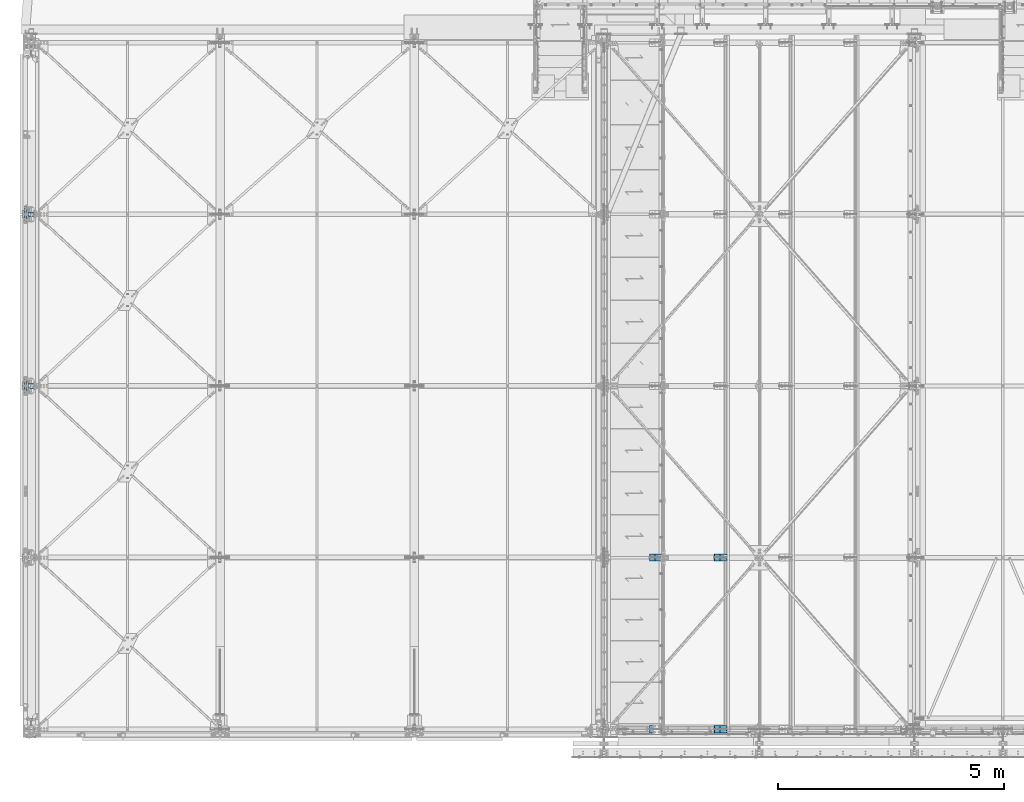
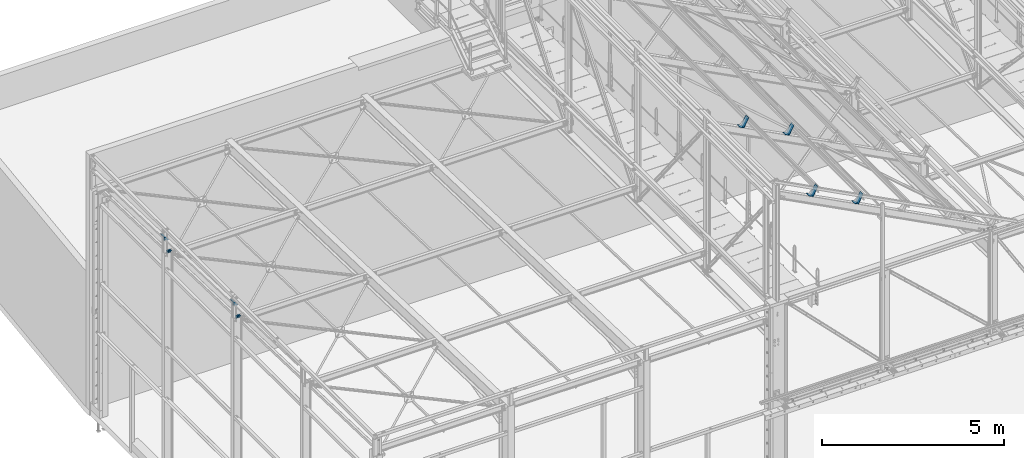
# One storey, part 353 of 362: 12 beams, 12 elements without a shape of their own.
"""IFC2X3 building model written with IfcOpenShell, lengths in millimetres."""

from ifc_helpers import new_model, si_unit, frame, origin_with_axes, place, context, subcontext, project, spatial, faceted_brep, material, type_object, element, aggregate, save


model = new_model("IFC2X3")

# Units and contexts
model_context = context("Model", 3, precision=1e-05, world=origin_with_axes())
body_context = subcontext(model_context, "Body", "Model", "MODEL_VIEW")
ifc_project = project(units=[si_unit("LENGTHUNIT", "METRE", prefix="MILLI"), si_unit("AREAUNIT", "SQUARE_METRE"), si_unit("VOLUMEUNIT", "CUBIC_METRE"), si_unit("MASSUNIT", "GRAM", prefix="KILO"), si_unit("TIMEUNIT", "SECOND"), si_unit("PLANEANGLEUNIT", "RADIAN"), si_unit("SOLIDANGLEUNIT", "STERADIAN"), si_unit("THERMODYNAMICTEMPERATUREUNIT", "DEGREE_CELSIUS"), si_unit("LUMINOUSINTENSITYUNIT", "LUMEN")], contexts=[model_context])

# Site, building, storey
site_placement = place(None, origin_with_axes())
site = spatial("IfcSite", under=ifc_project, at=site_placement, Name="Undefined", CompositionType="ELEMENT")
building_placement = place(site_placement, origin_with_axes())
building = spatial("IfcBuilding", under=site, at=building_placement, Name="Undefined", CompositionType="ELEMENT")
storey_placement = place(building_placement, origin_with_axes())
storey = spatial("IfcBuildingStorey", under=building, at=storey_placement, Name="Undefined", CompositionType="ELEMENT", Elevation=0.0)

# Assembly, beam
assembly_1_placement = place(storey_placement, origin_with_axes())
assembly_1 = element("IfcElementAssembly", 1, at=assembly_1_placement, inside=storey, Name="PANNE SHED", AssemblyPlace="NOTDEFINED", PredefinedType="NOTDEFINED")
ifc_material = material(Name="Undefined/S235-E24")
beam_type_1 = type_object("IfcBeamType", Name="PL10*160", PredefinedType="NOTDEFINED")
beam_1_placement = place(assembly_1_placement, frame((13962.1917528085, 4.08011983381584e-05, 11908.3024814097), z_axis=(0.0, -1.0, 0.0), x_axis=(-0.463528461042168, 0.0, -0.886082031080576)))
beam_1 = element("IfcBeam", 2, at=beam_1_placement, type_object=beam_type_1, material=ifc_material, Name="PANNE SHED", ObjectType="PL10*160", context=body_context, shape_type="Brep", body=[
    faceted_brep([(5.07934601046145e-08, -5.00000000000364, -80.0), (5.081164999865e-08, -5.0, 80.0), (-5.08007360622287e-08, 5.0, 79.9999999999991), (-5.0815287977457e-08, 4.99999999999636, -80.0000000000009), (329.999999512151, 5.00000335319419, 79.99999999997), (329.999999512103, 5.00000335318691, -80.00000000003), (319.999998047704, -4.9999967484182, -80.0000000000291), (319.999998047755, -4.99999674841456, 79.9999999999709), (330.000011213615, -145.000008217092, 80.0000000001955), (330.000011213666, -145.000008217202, -79.9999999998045), (320.000011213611, -145.000008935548, 80.0000000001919), (320.000011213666, -145.000008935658, -79.9999999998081)], [[[0, 1, 2, 3]], [[3, 2, 4, 5]], [[1, 0, 6, 7]], [[5, 4, 8, 9]], [[4, 2, 1, 7, 10, 8]], [[7, 6, 11, 10]], [[6, 0, 3, 5, 9, 11]], [[10, 11, 9, 8]]]),
])
aggregate(assembly_1, [beam_1])

assembly_2_placement = place(storey_placement, origin_with_axes())
assembly_2 = element("IfcElementAssembly", 3, at=assembly_2_placement, inside=storey, Name="PANNE SHED", AssemblyPlace="NOTDEFINED", PredefinedType="NOTDEFINED")
beam_2_placement = place(assembly_2_placement, frame((15399.49179541, 4.08011983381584e-05, 11156.4201912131), z_axis=(0.0, -1.0, 0.0), x_axis=(-0.463528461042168, 0.0, -0.886082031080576)))
beam_2 = element("IfcBeam", 4, at=beam_2_placement, type_object=beam_type_1, material=ifc_material, Name="PANNE SHED", ObjectType="PL10*160", context=body_context, shape_type="Brep", body=[
    faceted_brep([(5.07934601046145e-08, -5.00000000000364, -80.0), (5.081164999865e-08, -5.0, 80.0), (-5.08007360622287e-08, 5.0, 79.9999999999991), (-5.0815287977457e-08, 4.99999999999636, -80.0000000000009), (329.999999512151, 5.00000335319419, 79.99999999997), (329.999999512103, 5.00000335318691, -80.00000000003), (319.999998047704, -4.9999967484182, -80.0000000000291), (319.999998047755, -4.99999674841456, 79.9999999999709), (330.000011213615, -145.000008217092, 80.0000000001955), (330.000011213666, -145.000008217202, -79.9999999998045), (320.000011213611, -145.000008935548, 80.0000000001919), (320.000011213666, -145.000008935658, -79.9999999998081)], [[[0, 1, 2, 3]], [[3, 2, 4, 5]], [[1, 0, 6, 7]], [[5, 4, 8, 9]], [[4, 2, 1, 7, 10, 8]], [[7, 6, 11, 10]], [[6, 0, 3, 5, 9, 11]], [[10, 11, 9, 8]]]),
])
aggregate(assembly_2, [beam_2])

assembly_3_placement = place(storey_placement, origin_with_axes())
assembly_3 = element("IfcElementAssembly", 5, at=assembly_3_placement, inside=storey, Name="PANNE SHED", AssemblyPlace="NOTDEFINED", PredefinedType="NOTDEFINED")
beam_3_placement = place(assembly_3_placement, frame((13962.1917528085, 3800.0000408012, 11908.3024814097), z_axis=(0.0, -1.0, 0.0), x_axis=(-0.463528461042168, 0.0, -0.886082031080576)))
beam_3 = element("IfcBeam", 6, at=beam_3_placement, type_object=beam_type_1, material=ifc_material, Name="PANNE SHED", ObjectType="PL10*160", context=body_context, shape_type="Brep", body=[
    faceted_brep([(5.07934601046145e-08, -5.00000000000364, -80.0), (5.081164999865e-08, -5.0, 80.0), (-5.08007360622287e-08, 5.0, 79.9999999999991), (-5.0815287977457e-08, 4.99999999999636, -80.0000000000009), (329.999999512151, 5.00000335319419, 79.99999999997), (329.999999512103, 5.00000335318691, -80.00000000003), (319.999998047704, -4.9999967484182, -80.0000000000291), (319.999998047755, -4.99999674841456, 79.9999999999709), (330.000011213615, -145.000008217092, 80.0000000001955), (330.000011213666, -145.000008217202, -79.9999999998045), (320.000011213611, -145.000008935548, 80.0000000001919), (320.000011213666, -145.000008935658, -79.9999999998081)], [[[0, 1, 2, 3]], [[3, 2, 4, 5]], [[1, 0, 6, 7]], [[5, 4, 8, 9]], [[4, 2, 1, 7, 10, 8]], [[7, 6, 11, 10]], [[6, 0, 3, 5, 9, 11]], [[10, 11, 9, 8]]]),
])
aggregate(assembly_3, [beam_3])

assembly_4_placement = place(storey_placement, origin_with_axes())
assembly_4 = element("IfcElementAssembly", 7, at=assembly_4_placement, inside=storey, Name="PANNE SHED", AssemblyPlace="NOTDEFINED", PredefinedType="NOTDEFINED")
beam_4_placement = place(assembly_4_placement, frame((15399.49179541, 3800.0000408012, 11156.4201912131), z_axis=(0.0, -1.0, 0.0), x_axis=(-0.463528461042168, 0.0, -0.886082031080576)))
beam_4 = element("IfcBeam", 8, at=beam_4_placement, type_object=beam_type_1, material=ifc_material, Name="PANNE SHED", ObjectType="PL10*160", context=body_context, shape_type="Brep", body=[
    faceted_brep([(5.07934601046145e-08, -5.00000000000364, -80.0), (5.081164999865e-08, -5.0, 80.0), (-5.08007360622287e-08, 5.0, 79.9999999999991), (-5.0815287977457e-08, 4.99999999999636, -80.0000000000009), (329.999999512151, 5.00000335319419, 79.99999999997), (329.999999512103, 5.00000335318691, -80.00000000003), (319.999998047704, -4.9999967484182, -80.0000000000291), (319.999998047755, -4.99999674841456, 79.9999999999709), (330.000011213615, -145.000008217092, 80.0000000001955), (330.000011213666, -145.000008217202, -79.9999999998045), (320.000011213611, -145.000008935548, 80.0000000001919), (320.000011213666, -145.000008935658, -79.9999999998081)], [[[0, 1, 2, 3]], [[3, 2, 4, 5]], [[1, 0, 6, 7]], [[5, 4, 8, 9]], [[4, 2, 1, 7, 10, 8]], [[7, 6, 11, 10]], [[6, 0, 3, 5, 9, 11]], [[10, 11, 9, 8]]]),
])
aggregate(assembly_4, [beam_4])

assembly_5_placement = place(storey_placement, origin_with_axes())
assembly_5 = element("IfcElementAssembly", 9, at=assembly_5_placement, inside=storey, AssemblyPlace="NOTDEFINED", PredefinedType="NOTDEFINED")
beam_type_2 = type_object("IfcBeamType", Name="PL6*50", PredefinedType="NOTDEFINED")
beam_5_placement = place(assembly_5_placement, frame((-129.999999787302, 11411.0091475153, 8082.99910469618), z_axis=(1.0, 0.0, 0.0), x_axis=(0.0, 0.0, 1.0)))
beam_5 = element("IfcBeam", 10, at=beam_5_placement, type_object=beam_type_2, material=ifc_material, Name="ATTACHE", ObjectType="PL6*50", context=body_context, shape_type="Brep", body=[
    faceted_brep([(-5.16229192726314e-09, -3.0, -25.0), (-5.16229192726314e-09, -3.0, 25.0), (5.16229192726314e-09, 3.0, 25.0), (5.16229192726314e-09, 3.0, -25.0), (109.748268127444, 2.99999987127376, 25.0), (109.748268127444, 2.99999987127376, -25.0), (103.556726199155, -3.00000012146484, -25.0), (103.556726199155, -3.00000012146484, 25.0), (104.187332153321, -173.931625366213, 25.0), (104.187332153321, -173.931625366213, -25.0), (98.1902934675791, -173.743139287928, 25.0), (98.1902934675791, -173.743139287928, -25.0)], [[[0, 1, 2, 3]], [[3, 2, 4, 5]], [[1, 0, 6, 7]], [[5, 4, 8, 9]], [[4, 2, 1, 7, 10, 8]], [[7, 6, 11, 10]], [[6, 0, 3, 5, 9, 11]], [[10, 11, 9, 8]]]),
])
aggregate(assembly_5, [beam_5])

assembly_6_placement = place(storey_placement, origin_with_axes())
assembly_6 = element("IfcElementAssembly", 11, at=assembly_6_placement, inside=storey, AssemblyPlace="NOTDEFINED", PredefinedType="NOTDEFINED")
beam_6_placement = place(assembly_6_placement, frame((-129.999999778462, 11214.9649832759, 8195.81325670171), z_axis=(1.0, 0.0, 0.0), x_axis=(0.0, 0.99950644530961, -0.0314144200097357)))
beam_6 = element("IfcBeam", 12, at=beam_6_placement, type_object=beam_type_2, material=ifc_material, Name="ATTACHE", ObjectType="PL6*50", context=body_context, shape_type="Brep", body=[
    faceted_brep([(-5.16229192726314e-09, -3.0, -25.0), (-5.16229192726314e-09, -3.0, 25.0), (5.16229192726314e-09, 3.0, 25.0), (5.16229192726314e-09, 3.0, -25.0), (177.028153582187, 3.00000013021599, 25.0), (177.028153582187, 3.00000013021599, -25.0), (171.213770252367, -2.99999987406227, -25.0), (171.213770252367, -2.99999987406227, 25.0), (180.491635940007, -107.197020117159, 25.0), (180.491635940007, -107.197020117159, -25.0), (174.494597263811, -107.385506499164, 25.0), (174.494597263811, -107.385506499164, -25.0)], [[[0, 1, 2, 3]], [[3, 2, 4, 5]], [[1, 0, 6, 7]], [[5, 4, 8, 9]], [[4, 2, 1, 7, 10, 8]], [[7, 6, 11, 10]], [[6, 0, 3, 5, 9, 11]], [[10, 11, 9, 8]]]),
])
aggregate(assembly_6, [beam_6])

assembly_7_placement = place(storey_placement, origin_with_axes())
assembly_7 = element("IfcElementAssembly", 13, at=assembly_7_placement, inside=storey, AssemblyPlace="NOTDEFINED", PredefinedType="NOTDEFINED")
beam_7_placement = place(assembly_7_placement, frame((-129.999999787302, 7611.0, 8202.43274464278), z_axis=(1.0, 0.0, 0.0), x_axis=(0.0, 0.0, 1.0)))
beam_7 = element("IfcBeam", 14, at=beam_7_placement, type_object=beam_type_2, material=ifc_material, Name="ATTACHE", ObjectType="PL6*50", context=body_context, shape_type="Brep", body=[
    faceted_brep([(-5.16229192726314e-09, -3.0, -25.0), (-5.16229192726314e-09, -3.0, 25.0), (5.16229192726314e-09, 3.0, 25.0), (5.16229192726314e-09, 3.0, -25.0), (109.748558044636, 2.99999999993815, 25.0), (109.748558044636, 2.99999999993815, -25.0), (103.557016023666, -3.00000000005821, -25.0), (103.557016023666, -3.00000000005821, 25.0), (104.187332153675, -173.940765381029, 25.0), (104.187332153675, -173.940765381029, -25.0), (98.190293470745, -173.752279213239, 25.0), (98.190293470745, -173.752279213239, -25.0)], [[[0, 1, 2, 3]], [[3, 2, 4, 5]], [[1, 0, 6, 7]], [[5, 4, 8, 9]], [[4, 2, 1, 7, 10, 8]], [[7, 6, 11, 10]], [[6, 0, 3, 5, 9, 11]], [[10, 11, 9, 8]]]),
])
aggregate(assembly_7, [beam_7])

assembly_8_placement = place(storey_placement, origin_with_axes())
assembly_8 = element("IfcElementAssembly", 15, at=assembly_8_placement, inside=storey, AssemblyPlace="NOTDEFINED", PredefinedType="NOTDEFINED")
beam_8_placement = place(assembly_8_placement, frame((-129.999999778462, 7414.96498327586, 8315.24689664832), z_axis=(1.0, 0.0, 0.0), x_axis=(0.0, 0.99950644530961, -0.0314144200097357)))
beam_8 = element("IfcBeam", 16, at=beam_8_placement, type_object=beam_type_2, material=ifc_material, Name="ATTACHE", ObjectType="PL6*50", context=body_context, shape_type="Brep", body=[
    faceted_brep([(-5.16229192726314e-09, -3.0, -25.0), (-5.16229192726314e-09, -3.0, 25.0), (5.16229192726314e-09, 3.0, 25.0), (5.16229192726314e-09, 3.0, -25.0), (177.028153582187, 3.00000013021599, 25.0), (177.028153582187, 3.00000013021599, -25.0), (171.213770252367, -2.99999987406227, -25.0), (171.213770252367, -2.99999987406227, 25.0), (180.491635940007, -107.197020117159, 25.0), (180.491635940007, -107.197020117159, -25.0), (174.494597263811, -107.385506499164, 25.0), (174.494597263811, -107.385506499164, -25.0)], [[[0, 1, 2, 3]], [[3, 2, 4, 5]], [[1, 0, 6, 7]], [[5, 4, 8, 9]], [[4, 2, 1, 7, 10, 8]], [[7, 6, 11, 10]], [[6, 0, 3, 5, 9, 11]], [[10, 11, 9, 8]]]),
])
aggregate(assembly_8, [beam_8])

assembly_9_placement = place(storey_placement, origin_with_axes())
assembly_9 = element("IfcElementAssembly", 17, at=assembly_9_placement, inside=storey, Name="SUPPORT", AssemblyPlace="NOTDEFINED", PredefinedType="NOTDEFINED")
beam_type_3 = type_object("IfcBeamType", Name="PL5*140", PredefinedType="NOTDEFINED")
beam_9_placement = place(assembly_9_placement, frame((-5.0, 7593.99999888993, 7741.04947686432), z_axis=(1.0, 0.0, 0.0), x_axis=(0.0, 0.0, 1.0)))
beam_9 = element("IfcBeam", 18, at=beam_9_placement, type_object=beam_type_3, material=ifc_material, Name="SUPPORT", ObjectType="PL5*140", context=body_context, shape_type="Brep", body=[
    faceted_brep([(0.0, -2.5, -70.0), (0.0, -2.5, 70.0), (0.0, 2.5, 70.0), (0.0, 2.5, -70.0), (65.3746499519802, 2.5, 70.0), (65.3746499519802, 2.5, -70.0), (70.2199859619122, -2.5, -70.0), (70.2199859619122, -2.5, 70.0), (66.7930022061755, 47.6323814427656, 70.0), (66.7930022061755, 47.6323814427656, -70.0), (71.7905349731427, 47.4753265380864, 70.0), (71.7905349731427, 47.4753265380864, -70.0)], [[[0, 1, 2, 3]], [[3, 2, 4, 5]], [[1, 0, 6, 7]], [[5, 4, 8, 9]], [[4, 2, 1, 7, 10, 8]], [[7, 6, 11, 10]], [[6, 0, 3, 5, 9, 11]], [[10, 11, 9, 8]]]),
])
aggregate(assembly_9, [beam_9])

assembly_10_placement = place(storey_placement, origin_with_axes())
assembly_10 = element("IfcElementAssembly", 19, at=assembly_10_placement, inside=storey, Name="SUPPORT", AssemblyPlace="NOTDEFINED", PredefinedType="NOTDEFINED")
beam_10_placement = place(assembly_10_placement, frame((-4.99999999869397, 7653.39679905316, 7806.98016147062), z_axis=(1.0, 0.0, 0.0), x_axis=(0.0, -0.999506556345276, 0.031410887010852)))
beam_10 = element("IfcBeam", 20, at=beam_10_placement, type_object=beam_type_3, material=ifc_material, Name="SUPPORT", ObjectType="PL5*140", context=body_context, shape_type="Brep", body=[
    faceted_brep([(0.0, -2.5, -70.0), (0.0, -2.5, 70.0), (0.0, 2.5, 70.0), (0.0, 2.5, -70.0), (44.8403979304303, 2.49999994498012, 70.0), (44.8403979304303, 2.49999994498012, -70.0), (49.9999988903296, -2.50000006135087, -70.0), (49.9999988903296, -2.50000006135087, 70.0), (42.8036965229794, 67.3084043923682, 70.0), (42.8036965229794, 67.3084043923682, -70.0), (47.8012292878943, 67.4654593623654, 70.0), (47.8012292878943, 67.4654593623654, -70.0)], [[[0, 1, 2, 3]], [[3, 2, 4, 5]], [[1, 0, 6, 7]], [[5, 4, 8, 9]], [[4, 2, 1, 7, 10, 8]], [[7, 6, 11, 10]], [[6, 0, 3, 5, 9, 11]], [[10, 11, 9, 8]]]),
])
aggregate(assembly_10, [beam_10])

assembly_11_placement = place(storey_placement, origin_with_axes())
assembly_11 = element("IfcElementAssembly", 21, at=assembly_11_placement, inside=storey, Name="SUPPORT", AssemblyPlace="NOTDEFINED", PredefinedType="NOTDEFINED")
beam_11_placement = place(assembly_11_placement, frame((-5.0, 11394.0, 7621.62877190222), z_axis=(1.0, 0.0, 0.0), x_axis=(0.0, 0.0, 1.0)))
beam_11 = element("IfcBeam", 22, at=beam_11_placement, type_object=beam_type_3, material=ifc_material, Name="SUPPORT", ObjectType="PL5*140", context=body_context, shape_type="Brep", body=[
    faceted_brep([(0.0, -2.5, -70.0), (0.0, -2.5, 70.0), (0.0, 2.5, 70.0), (0.0, 2.5, -70.0), (65.3746499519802, 2.5, 70.0), (65.3746499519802, 2.5, -70.0), (70.2199859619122, -2.5, -70.0), (70.2199859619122, -2.5, 70.0), (66.7930022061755, 47.6323814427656, 70.0), (66.7930022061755, 47.6323814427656, -70.0), (71.7905349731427, 47.4753265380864, 70.0), (71.7905349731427, 47.4753265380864, -70.0)], [[[0, 1, 2, 3]], [[3, 2, 4, 5]], [[1, 0, 6, 7]], [[5, 4, 8, 9]], [[4, 2, 1, 7, 10, 8]], [[7, 6, 11, 10]], [[6, 0, 3, 5, 9, 11]], [[10, 11, 9, 8]]]),
])
aggregate(assembly_11, [beam_11])

assembly_12_placement = place(storey_placement, origin_with_axes())
assembly_12 = element("IfcElementAssembly", 23, at=assembly_12_placement, inside=storey, Name="SUPPORT", AssemblyPlace="NOTDEFINED", PredefinedType="NOTDEFINED")
beam_12_placement = place(assembly_12_placement, frame((-4.99999999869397, 11453.3968001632, 7687.55945650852), z_axis=(1.0, 0.0, 0.0), x_axis=(0.0, -0.999506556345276, 0.031410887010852)))
beam_12 = element("IfcBeam", 24, at=beam_12_placement, type_object=beam_type_3, material=ifc_material, Name="SUPPORT", ObjectType="PL5*140", context=body_context, shape_type="Brep", body=[
    faceted_brep([(0.0, -2.5, -70.0), (0.0, -2.5, 70.0), (0.0, 2.5, 70.0), (0.0, 2.5, -70.0), (44.8403979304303, 2.49999994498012, 70.0), (44.8403979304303, 2.49999994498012, -70.0), (49.9999988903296, -2.50000006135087, -70.0), (49.9999988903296, -2.50000006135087, 70.0), (42.8036965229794, 67.3084043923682, 70.0), (42.8036965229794, 67.3084043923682, -70.0), (47.8012292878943, 67.4654593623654, 70.0), (47.8012292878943, 67.4654593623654, -70.0)], [[[0, 1, 2, 3]], [[3, 2, 4, 5]], [[1, 0, 6, 7]], [[5, 4, 8, 9]], [[4, 2, 1, 7, 10, 8]], [[7, 6, 11, 10]], [[6, 0, 3, 5, 9, 11]], [[10, 11, 9, 8]]]),
])
aggregate(assembly_12, [beam_12])

save(model, "model.ifc")
